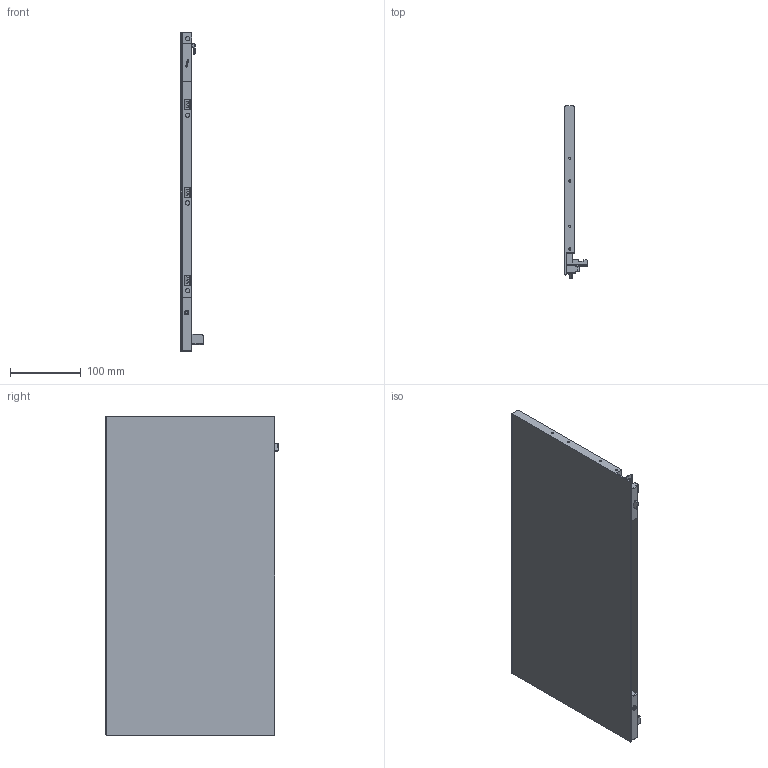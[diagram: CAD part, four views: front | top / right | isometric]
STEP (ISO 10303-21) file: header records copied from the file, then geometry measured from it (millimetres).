
FILE_DESCRIPTION (( 'STEP AP203' ), '1' );
FILE_NAME ('HT144501-L.STEP', '2021-03-16T02:42:42', ( 'Users' ), ( 'Microsoft' ), 'SwSTEP 2.0', 'SolidWorks 2018', '' );
FILE_SCHEMA (( 'CONFIG_CONTROL_DESIGN' ));
Length unit declared in the file: millimetre
Products named in the file (1): HT144501-L
Bounding box: 31.3 x 243 x 449 mm (x, y, z)
Volume: 1251323.7 mm3; surface area: 257077 mm2
Topology: 1 solids, 8 shells, 408 faces, 1031 edges, 641 vertices
Faces by surface type: plane 201, cylinder 143, torus 29, bspline 23, cone 6, sphere 6
Entity records: 12714 total; most frequent: CARTESIAN_POINT 2978, ORIENTED_EDGE 2044, DIRECTION 1979, EDGE_CURVE 1022, AXIS2_PLACEMENT_3D 674, VERTEX_POINT 641, VECTOR 631, LINE 631
